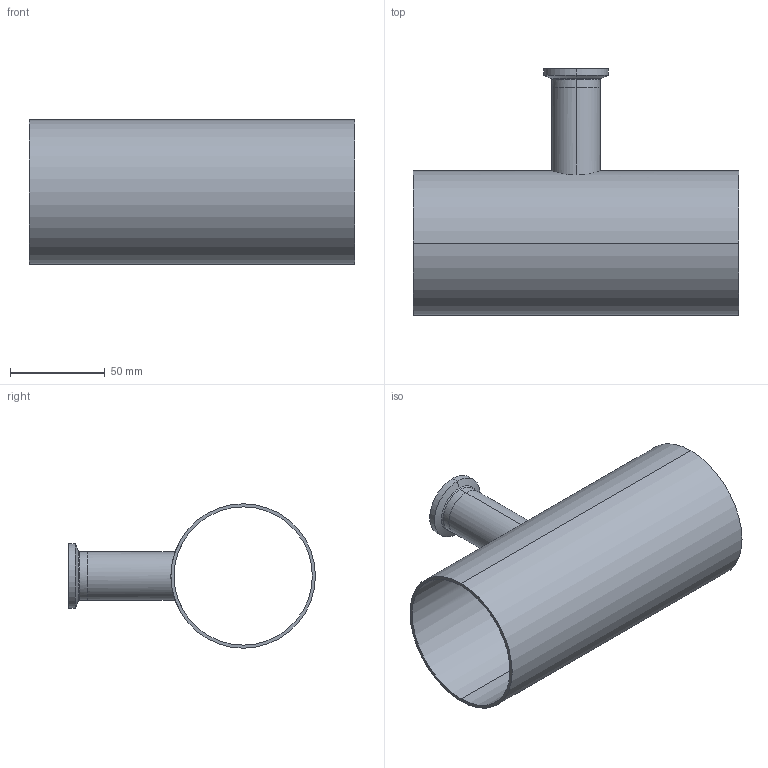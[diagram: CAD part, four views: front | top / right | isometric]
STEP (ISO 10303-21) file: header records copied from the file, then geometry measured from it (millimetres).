
FILE_DESCRIPTION (( 'STEP AP214' ), '1' );
FILE_NAME ('TE7RWWC6L3.0x1.0-..Type A.STEP', '2016-05-23T08:45:09', ( 'eran' ), ( '' ), 'SwSTEP 2.0', 'SolidWorks 2016', '' );
FILE_SCHEMA (( 'AUTOMOTIVE_DESIGN' ));
Length unit declared in the file: millimetre
Products named in the file (1): TE7RWWC6L3.0x1.0-..Type A
Bounding box: 171.4 x 130.2 x 76.2 mm (x, y, z)
Volume: 73640.5 mm3; surface area: 89775.3 mm2
Topology: 2 solids, 2 shells, 34 faces, 82 edges, 54 vertices
Faces by surface type: cylinder 16, bspline 8, plane 6, cone 4
Entity records: 1347 total; most frequent: CARTESIAN_POINT 491, DIRECTION 182, ORIENTED_EDGE 164, EDGE_CURVE 82, AXIS2_PLACEMENT_3D 81, CIRCLE 54, VERTEX_POINT 54, EDGE_LOOP 42
